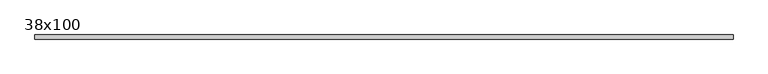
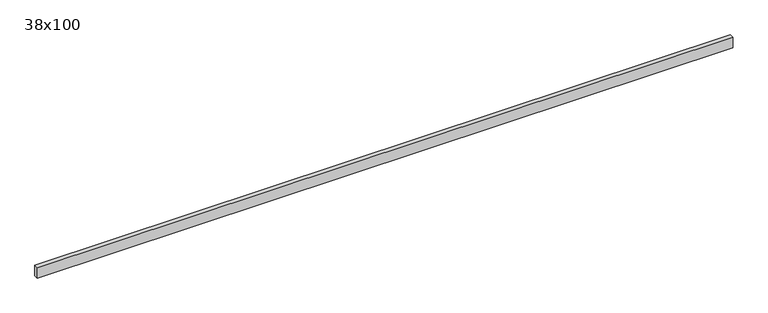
"""IFC4 building model written with IfcOpenShell, lengths in millimetres: beam geometry, Poutre - Bois de construction de dimensions courantes : 38x100."""

from ifc_helpers import new_model, si_unit, frame, origin, place, context, project, spatial, polyline, outline, extrude, source, transform, mapped, element, save


def beam_38x100_6b3f4f57(model_context):
    return source(origin(), model_context, "Body", "SweptSolid", [
        extrude(outline(polyline([(3193.0, 19.05), (3193.0, -19.05), (-3193.0, -19.05), (-3193.0, 19.05), (3193.0, 19.05)])), frame((0.0, 0.0, -50.0), z_axis=(0.0, 0.0, 1.0), x_axis=(1.0, 0.0, 0.0)), (0.0, 0.0, 1.0), 100.0),
    ])


if __name__ == "__main__":
    model = new_model("IFC4")
    model_context = context("Model", 3, world=origin())
    ifc_project = project(units=[si_unit("LENGTHUNIT", "METRE", prefix="MILLI")], contexts=[model_context])
    site = spatial("IfcSite", under=ifc_project)
    building = spatial("IfcBuilding", under=site)
    placement = place(None, origin())
    beam_38x100_shape = beam_38x100_6b3f4f57(model_context)
    element("IfcBeam", 1, ObjectType="Poutre - Bois de construction de dimensions courantes : 38x100", at=placement, inside=building, context=model_context, shape_type="MappedRepresentation", body=[
        mapped(beam_38x100_shape, transform((0.0, 0.0, 0.0), x_axis=(1.0, 0.0, 0.0), y_axis=(0.0, 1.0, 0.0), z_axis=(0.0, 0.0, 1.0))),
    ])
    save(model, "model.ifc")
